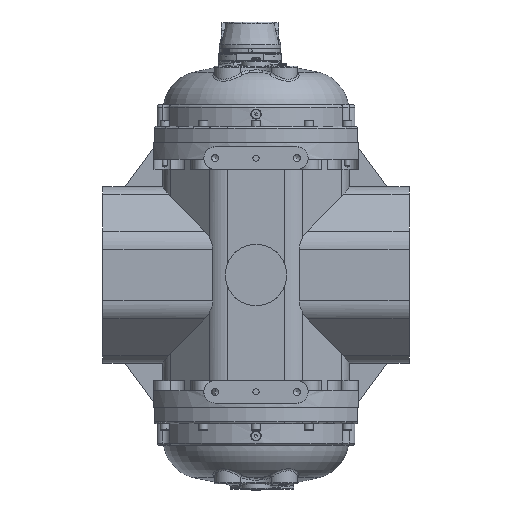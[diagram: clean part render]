
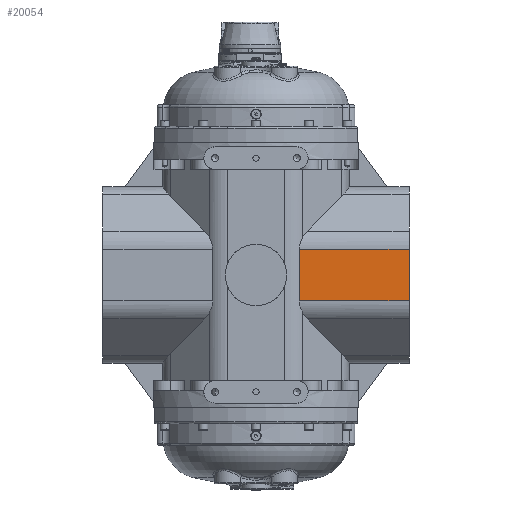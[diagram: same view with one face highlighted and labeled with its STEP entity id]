
A CAD part, front view. The second image highlights one B-rep face of the part: STEP entity #20054.
In plain terms, the highlighted planar face has unit normal (0, -1, 0).
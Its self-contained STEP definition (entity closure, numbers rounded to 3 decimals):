
#20054=ADVANCED_FACE('',(#26821),#26823,.T.);
#26821=FACE_BOUND('',#26822,.T.);
#26822=EDGE_LOOP('',(#32542,#32543,#32544,#32545));
#26823=PLANE('',#26824);
#26824=AXIS2_PLACEMENT_3D('',#26825,#26826,#26827);
#26825=CARTESIAN_POINT('',(-499983.329,-161.895,50.741));
#26826=DIRECTION('',(0.,-1.,0.));
#26827=DIRECTION('',(0.,0.,-1.));
#32542=ORIENTED_EDGE('',*,*,#38970,.F.);
#32543=ORIENTED_EDGE('',*,*,#38971,.T.);
#32544=ORIENTED_EDGE('',*,*,#38972,.T.);
#32545=ORIENTED_EDGE('',*,*,#38779,.F.);
#38779=EDGE_CURVE('',#74663,#74665,#74666,.T.);
#38970=EDGE_CURVE('',#75003,#74663,#75005,.T.);
#38971=EDGE_CURVE('',#75003,#75006,#75007,.T.);
#38972=EDGE_CURVE('',#75006,#74665,#75008,.T.);
#74663=VERTEX_POINT('',#77082);
#74665=VERTEX_POINT('',#77087);
#74666=LINE('',#77088,#77089);
#75003=VERTEX_POINT('',#78434);
#75005=LINE('',#78470,#78471);
#75006=VERTEX_POINT('',#78473);
#75007=LINE('',#78474,#78475);
#75008=LINE('',#78477,#78478);
#77082=CARTESIAN_POINT('',(316.671,-161.895,50.741));
#77087=CARTESIAN_POINT('',(316.671,-161.895,-50.741));
#77088=CARTESIAN_POINT('',(316.671,-161.895,50.741));
#77089=VECTOR('',#77090,1.);
#77090=DIRECTION('',(0.,0.,-1.));
#78434=CARTESIAN_POINT('',(101.554,-161.895,50.741));
#78470=CARTESIAN_POINT('',(101.554,-161.895,50.741));
#78471=VECTOR('',#78472,1.);
#78472=DIRECTION('',(1.,0.,0.));
#78473=CARTESIAN_POINT('',(101.554,-161.895,-50.741));
#78474=CARTESIAN_POINT('',(101.554,-161.895,50.741));
#78475=VECTOR('',#78476,1.);
#78476=DIRECTION('',(0.,0.,-1.));
#78477=CARTESIAN_POINT('',(101.554,-161.895,-50.741));
#78478=VECTOR('',#78479,1.);
#78479=DIRECTION('',(1.,0.,0.));
